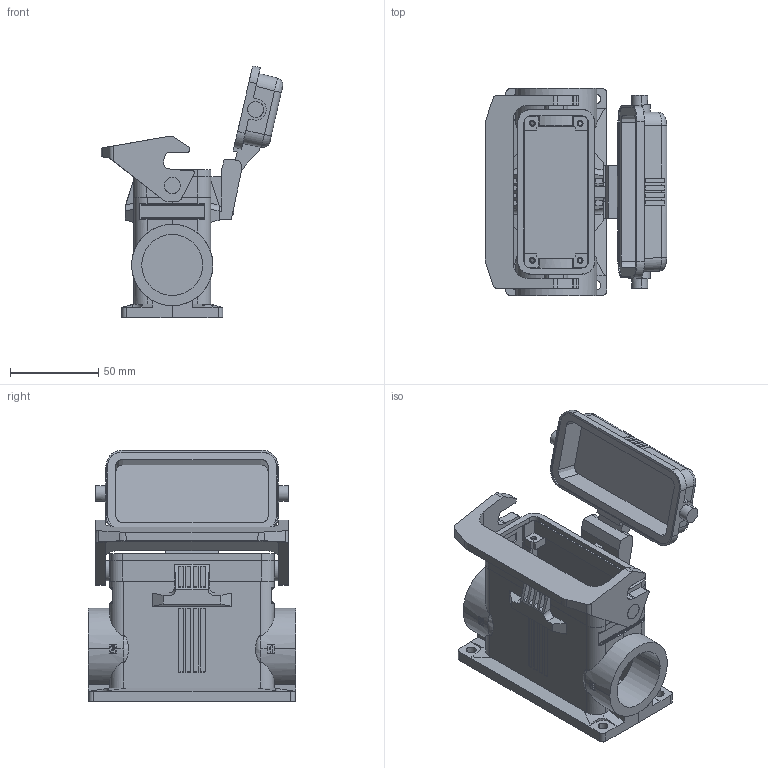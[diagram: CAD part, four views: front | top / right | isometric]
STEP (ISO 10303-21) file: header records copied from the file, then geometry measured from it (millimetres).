
FILE_DESCRIPTION(('SolidDesigner STEP Export'),'2;1');
FILE_NAME('1407651_HC_EVO_B16_SHWSC_2SSM40_PLRBK-select.stp','2016-12-22T11:36:09',(''),(''),'Creo Elements/Direct Modeling STEP processor for AP214 (Solid Model)','Creo Elements/Direct Modeling 18.1G 27-Feb-2015 (C) Parametric Technology GmbH','');
FILE_SCHEMA(('AUTOMOTIVE_DESIGN { 1 0 10303 214 1 1 1 1 }'));
Length unit declared in the file: millimetre
Products named in the file (2): 1407651_HC_EVO_B16_SHWSC_2SSM40_PLRBK-select
Assembly tree (1 placements, depth 2):
  1407651_HC_EVO_B16_SHWSC_2SSM40_PLRBK-select
    1407651_HC_EVO_B16_SHWSC_2SSM40_PLRBK-select
Bounding box: 102.76 x 117.5 x 142.63 mm (x, y, z)
Volume: 185974.6 mm3; surface area: 94355.5 mm2
Topology: 1 solids, 1 shells, 577 faces, 1575 edges, 1037 vertices
Faces by surface type: plane 398, cylinder 141, bspline 16, cone 12, extrusion 5, torus 4, sphere 1
Entity records: 27962 total; most frequent: CARTESIAN_POINT 8977, ORIENTED_EDGE 3150, DIRECTION 2737, EDGE_CURVE 1575, VECTOR 1117, LINE 1111, VERTEX_POINT 1037, AXIS2_PLACEMENT_3D 810
